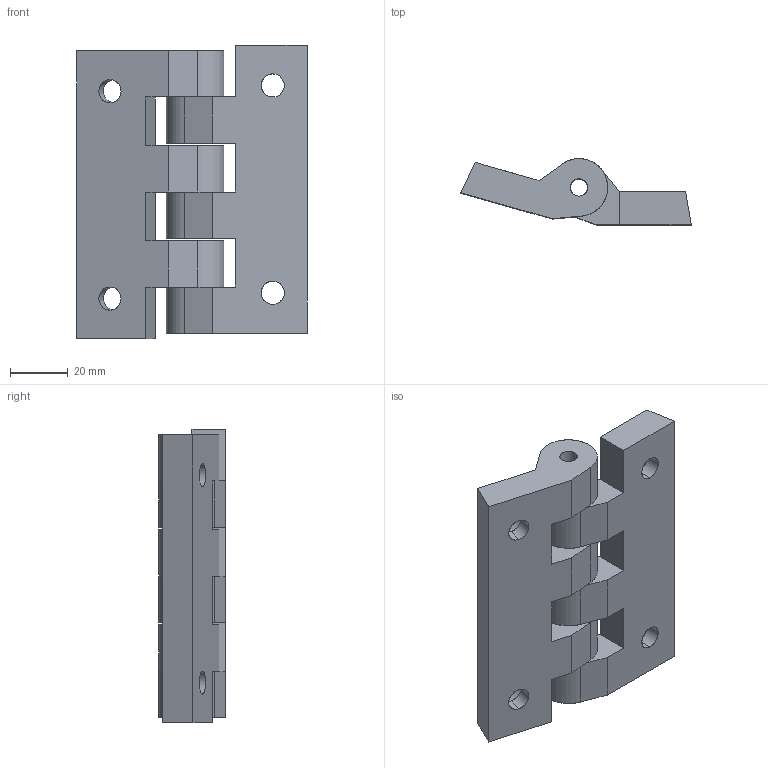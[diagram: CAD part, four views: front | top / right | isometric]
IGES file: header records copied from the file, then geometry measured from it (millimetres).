
Start section: SolidWorks IGES file using analytic representation for surfaces
Global section: file name: C:\Documents and Settings\ARGE\Desktop\yeni katalog tolgay düzenli\B kataloðu\plastik menteþe 78x100\export\215 000 102 mon.IGS; native system: SolidWorks 2006 by SolidWorks Corporation; preprocessor: SolidWorks 2006 by SolidWorks Corporation; author: ARGE2; date: 060912.100551; units: millimetre
Bounding box: 80.07 x 23 x 102 mm (x, y, z)
Surface area: 28068.4 mm2 (no closed solid volume)
Topology: 0 solids, 0 shells, 76 faces, 1600 edges, 1600 vertices
Faces by surface type: bspline 42, revolution 34
